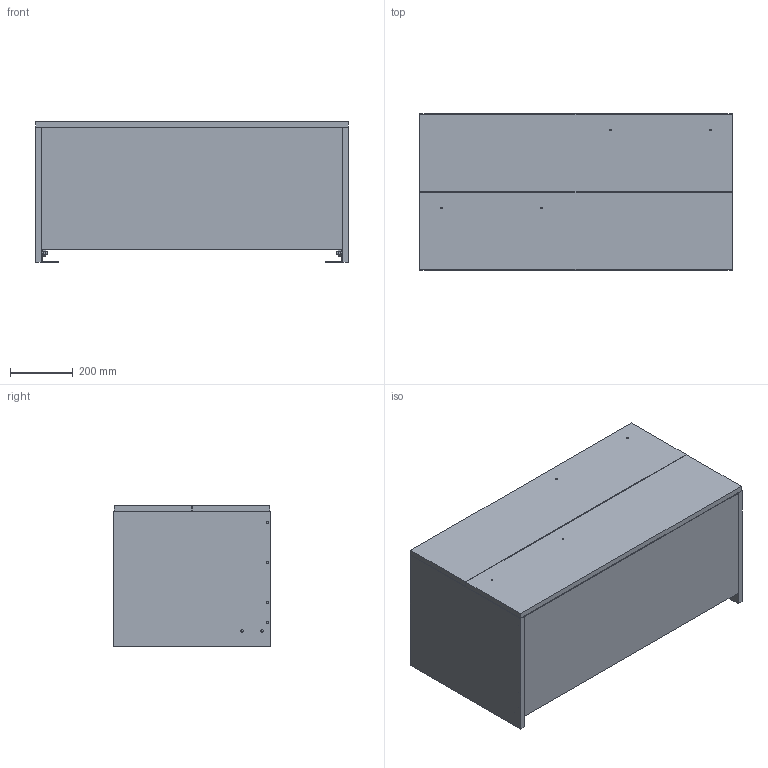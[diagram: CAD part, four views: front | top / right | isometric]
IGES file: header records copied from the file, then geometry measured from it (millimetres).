
Global section: file name: 3D Dosyası,; native system: Autodesk Inventor 2024; preprocessor: unknown; author: pc11; date: 20250708.104038; units: millimetre
Bounding box: 1000 x 500 x 450 mm (x, y, z)
Volume: 37806912.3 mm3; surface area: 6334737.4 mm2
Topology: 57 solids, 58 shells, 2186 faces, 6089 edges, 4075 vertices
Faces by surface type: bspline 2186
